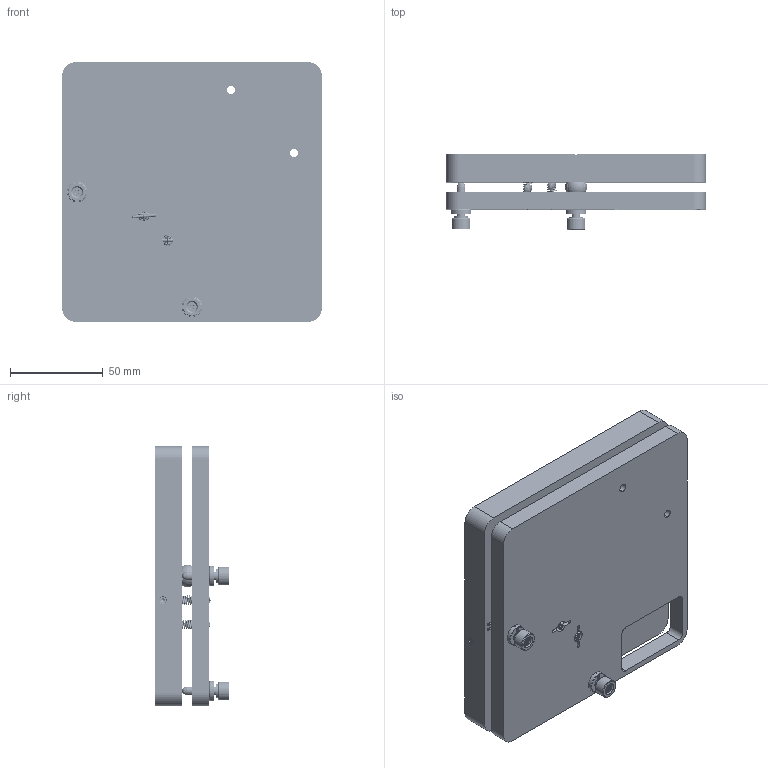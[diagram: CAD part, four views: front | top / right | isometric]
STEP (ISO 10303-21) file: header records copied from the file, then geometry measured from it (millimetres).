
FILE_DESCRIPTION((''),'2;1');
FILE_NAME('NPY-140_ASM','2021-08-25T',('Administrator'),(''),'CREO PARAMETRIC BY PTC INC, 2015290','CREO PARAMETRIC BY PTC INC, 2015290','');
FILE_SCHEMA(('CONFIG_CONTROL_DESIGN'));
Products named in the file (13): NPY-140_A1; NPYR-130_A2; BALL_12; SPRING_STRETCH_INST; AIXE_1_5X13; M4X50_HS; SPACER_8X1; AIXE_1_5X7; SPACER_9X1; M4X14_HS; CXY1L-M_A6; CXY1L-M_A7; NPY-140_ASM
Assembly tree (18 placements, depth 2):
  NPY-140_ASM
    NPY-140_A1
    NPYR-130_A2
    BALL_12
    SPRING_STRETCH_INST  x2
    AIXE_1_5X13  x2
    M4X50_HS  x2
    SPACER_8X1
    AIXE_1_5X7  x2
    SPACER_9X1
    M4X14_HS
    CXY1L-M_A6  x2
    CXY1L-M_A7  x2
Bounding box: 140 x 40.3 x 140 mm (x, y, z)
Volume: 464273.9 mm3; surface area: 101140 mm2
Topology: 22 solids, 22 shells, 1175 faces, 3053 edges, 1929 vertices
Faces by surface type: cylinder 651, bspline 214, plane 168, cone 108, torus 24, sphere 10
Entity records: 66448 total; most frequent: CARTESIAN_POINT 46117, ORIENTED_EDGE 4826, DIRECTION 3103, EDGE_CURVE 2413, VERTEX_POINT 1549, B_SPLINE_CURVE_WITH_KNOTS 1185, AXIS2_PLACEMENT_3D 1103, EDGE_LOOP 964
